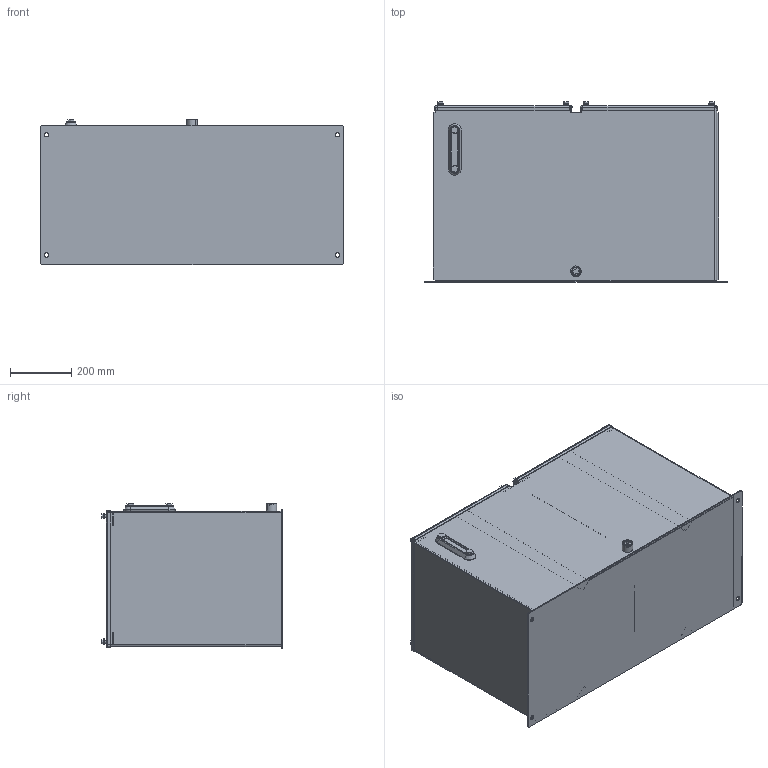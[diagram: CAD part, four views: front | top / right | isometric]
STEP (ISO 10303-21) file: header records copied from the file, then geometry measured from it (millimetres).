
FILE_DESCRIPTION (( 'STEP AP203' ), '1' );
FILE_NAME ('RDVS50-3.STEP', '2015-01-08T15:30:24', ( '' ), ( '' ), 'SwSTEP 2.0', 'SolidWorks 2014', '' );
FILE_SCHEMA (( 'CONFIG_CONTROL_DESIGN' ));
Length unit declared in the file: inch
Products named in the file (1): RDVS50-3
Bounding box: 990.6 x 589.94 x 476.25 mm (x, y, z)
Volume: 7728525.4 mm3; surface area: 5123234.4 mm2
Topology: 46 solids, 46 shells, 757 faces, 1740 edges, 1098 vertices
Faces by surface type: plane 371, cylinder 206, cone 110, torus 70
Entity records: 21455 total; most frequent: DIRECTION 3924, CARTESIAN_POINT 3608, ORIENTED_EDGE 3480, EDGE_CURVE 1740, AXIS2_PLACEMENT_3D 1430, VERTEX_POINT 1098, LINE 1064, VECTOR 1064
